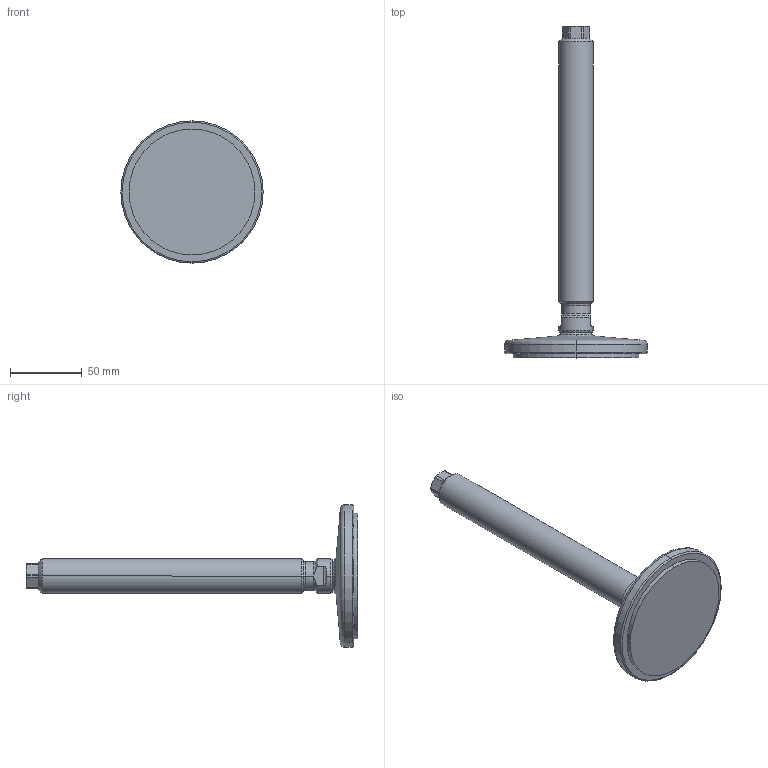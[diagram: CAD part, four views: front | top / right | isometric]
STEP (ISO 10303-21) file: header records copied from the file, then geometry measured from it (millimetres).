
FILE_DESCRIPTION (( 'STEP AP214' ), '1' );
FILE_NAME ('21-100-M24-200-D1-V.step', '2020-10-02T17:37:18', ( '' ), ( '' ), 'SwSTEP 2.0', 'SolidWorks 2019', '' );
FILE_SCHEMA (( 'AUTOMOTIVE_DESIGN' ));
Length unit declared in the file: millimetre
Products named in the file (3): WB21_Spindel_V^WB21_V_M24-200; 21-100-M24-200-D1-V; WB21_Fußteller 21^WB21_V_D1-100-R14-B9 (M24)
Assembly tree (2 placements, depth 2):
  21-100-M24-200-D1-V
    WB21_Fußteller 21^WB21_V_D1-100-R14-B9 (M24)
    WB21_Spindel_V^WB21_V_M24-200
Bounding box: 99 x 230.9 x 99 mm (x, y, z)
Volume: 191557.8 mm3; surface area: 35543 mm2
Topology: 2 solids, 2 shells, 76 faces, 171 edges, 101 vertices
Faces by surface type: cylinder 25, plane 20, cone 17, torus 10, sphere 4
Entity records: 2399 total; most frequent: CARTESIAN_POINT 517, DIRECTION 390, ORIENTED_EDGE 342, EDGE_CURVE 171, AXIS2_PLACEMENT_3D 166, VERTEX_POINT 101, CIRCLE 85, EDGE_LOOP 78
